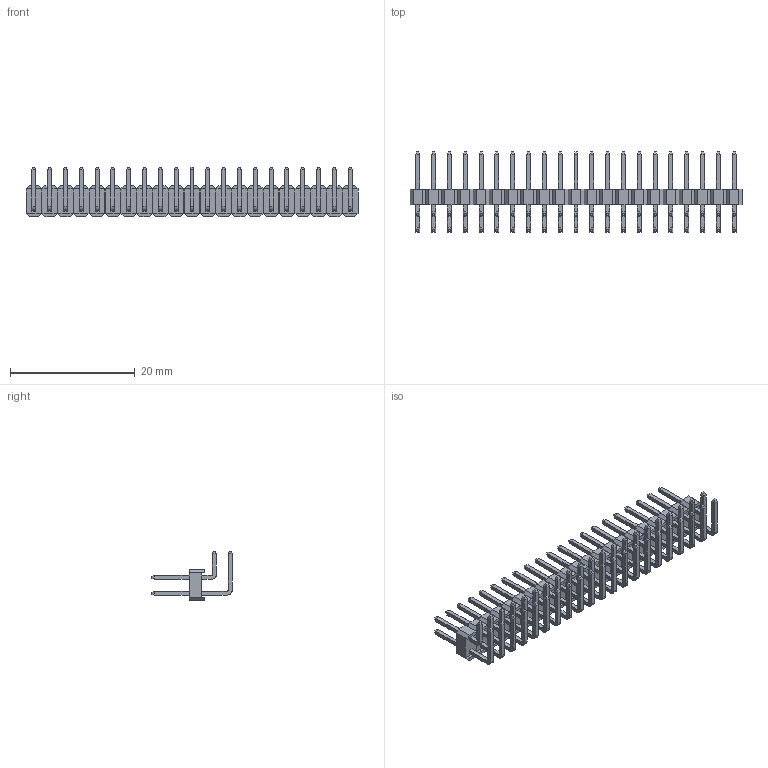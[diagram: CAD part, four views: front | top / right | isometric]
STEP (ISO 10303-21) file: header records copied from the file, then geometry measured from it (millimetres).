
FILE_DESCRIPTION (( 'STEP AP203' ), '1' );
FILE_NAME ('PZ254-2-21-W-2.5-XX (2.54 邧齬 俔渀 齬渀-HCTL).STEP', '2026-05-09T08:47:40', ( '' ), ( '' ), 'SwSTEP 2.0', 'SolidWorks 2025', '' );
FILE_SCHEMA (( 'CONFIG_CONTROL_DESIGN' ));
Length unit declared in the file: millimetre
Products named in the file (1): PZ254-2-21-W-2.5-XX (2.54 双排 弯针 排针-HCTL)
Bounding box: 53.3 x 12.9 x 8 mm (x, y, z)
Volume: 777 mm3; surface area: 3057 mm2
Topology: 41 solids, 41 shells, 1422 faces, 3348 edges, 2092 vertices
Faces by surface type: plane 1338, cylinder 84
Entity records: 39497 total; most frequent: CARTESIAN_POINT 6863, ORIENTED_EDGE 6696, DIRECTION 6362, EDGE_CURVE 3348, LINE 3180, VECTOR 3180, VERTEX_POINT 2092, AXIS2_PLACEMENT_3D 1591
